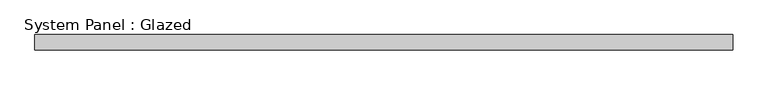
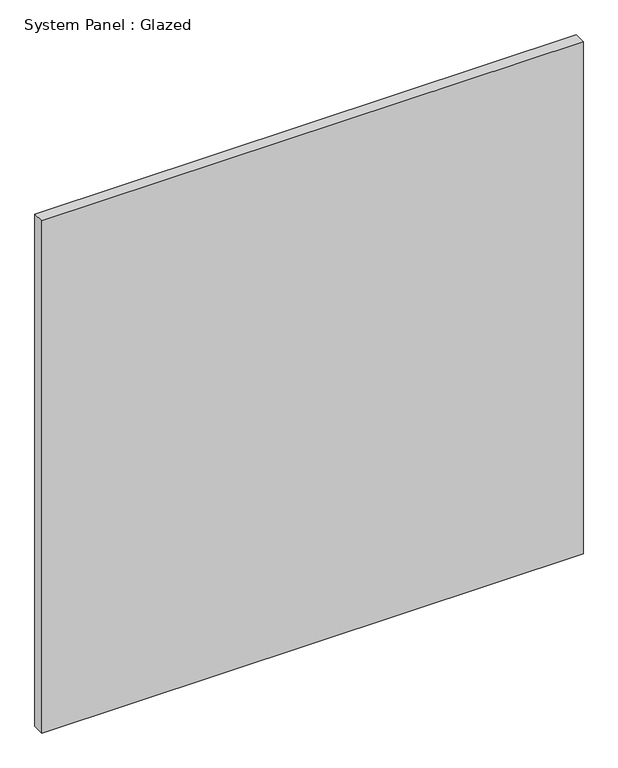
"""IFC4 building model written with IfcOpenShell, lengths in millimetres: plate geometry, System Panel : Glazed."""

from ifc_helpers import new_model, si_unit, origin, origin_with_axes, place, context, project, spatial, polyline, outline, extrude, source, transform, mapped, element, save


def system_panel_glazed_39d17f19(model_context):
    return source(origin(), model_context, "Body", "SweptSolid", [
        extrude(outline(polyline([(574.9234393, 24.5), (-574.9234393, 24.5), (-574.9234393, 49.5), (574.9234393, 49.5), (574.9234393, 24.5)])), origin_with_axes(), (0.0, 0.0, 1.0), 1150.0),
    ])


if __name__ == "__main__":
    model = new_model("IFC4")
    model_context = context("Model", 3, world=origin())
    ifc_project = project(units=[si_unit("LENGTHUNIT", "METRE", prefix="MILLI")], contexts=[model_context])
    site = spatial("IfcSite", under=ifc_project)
    building = spatial("IfcBuilding", under=site)
    placement = place(None, origin())
    system_panel_glazed_shape = system_panel_glazed_39d17f19(model_context)
    element("IfcPlate", 1, ObjectType="System Panel : Glazed", at=placement, inside=building, context=model_context, shape_type="MappedRepresentation", body=[
        mapped(system_panel_glazed_shape, transform((0.0, 0.0, 0.0), x_axis=(1.0, 0.0, 0.0), y_axis=(0.0, 1.0, 0.0), z_axis=(0.0, 0.0, 1.0))),
    ])
    save(model, "model.ifc")
